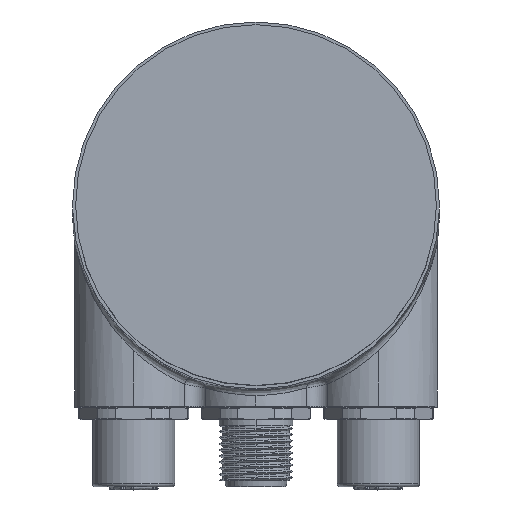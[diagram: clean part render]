
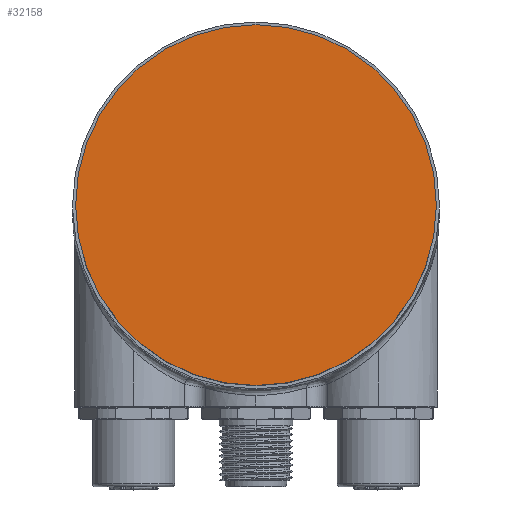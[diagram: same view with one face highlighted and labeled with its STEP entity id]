
A CAD part, top view. The second image highlights one B-rep face of the part: STEP entity #32158.
In plain terms, the highlighted planar face has unit normal (0, 0, 1).
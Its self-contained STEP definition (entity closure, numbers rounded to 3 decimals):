
#4380 = DIRECTION ( 'NONE',  ( 0., 0., -1. ) ) ;
#5005 = AXIS2_PLACEMENT_3D ( 'NONE', #11533, #35074, #29298 ) ;
#7466 = VERTEX_POINT ( 'NONE', #17952 ) ;
#8743 = DIRECTION ( 'NONE',  ( 0., 1., 0. ) ) ;
#11533 = CARTESIAN_POINT ( 'NONE',  ( 0., 0., 0. ) ) ;
#12553 = VERTEX_POINT ( 'NONE', #18573 ) ;
#12693 = ORIENTED_EDGE ( 'NONE', *, *, #24481, .F. ) ;
#13648 = EDGE_CURVE ( 'NONE', #12553, #7466, #37072, .T. ) ;
#15767 = FACE_OUTER_BOUND ( 'NONE', #18079, .T. ) ;
#16145 = DIRECTION ( 'NONE',  ( -1., 0., 0. ) ) ;
#17102 = CARTESIAN_POINT ( 'NONE',  ( 0., 0., 0. ) ) ;
#17952 = CARTESIAN_POINT ( 'NONE',  ( 0., 29.5, 0. ) ) ;
#18079 = EDGE_LOOP ( 'NONE', ( #30821, #12693 ) ) ;
#18573 = CARTESIAN_POINT ( 'NONE',  ( 0., -29.5, 0. ) ) ;
#24481 = EDGE_CURVE ( 'NONE', #7466, #12553, #35418, .T. ) ;
#28674 = DIRECTION ( 'NONE',  ( 0., 0., -1. ) ) ;
#29298 = DIRECTION ( 'NONE',  ( 0., 1., 0. ) ) ;
#30821 = ORIENTED_EDGE ( 'NONE', *, *, #13648, .F. ) ;
#30834 = CARTESIAN_POINT ( 'NONE',  ( 0., 0., 0. ) ) ;
#32158 = ADVANCED_FACE ( 'NONE', ( #15767 ), #33683, .F. ) ;
#33683 = PLANE ( 'NONE',  #34887 ) ;
#34887 = AXIS2_PLACEMENT_3D ( 'NONE', #30834, #4380, #16145 ) ;
#35074 = DIRECTION ( 'NONE',  ( 0., 0., -1. ) ) ;
#35418 = CIRCLE ( 'NONE', #36056, 29.5 ) ;
#36056 = AXIS2_PLACEMENT_3D ( 'NONE', #17102, #28674, #8743 ) ;
#37072 = CIRCLE ( 'NONE', #5005, 29.5 ) ;
